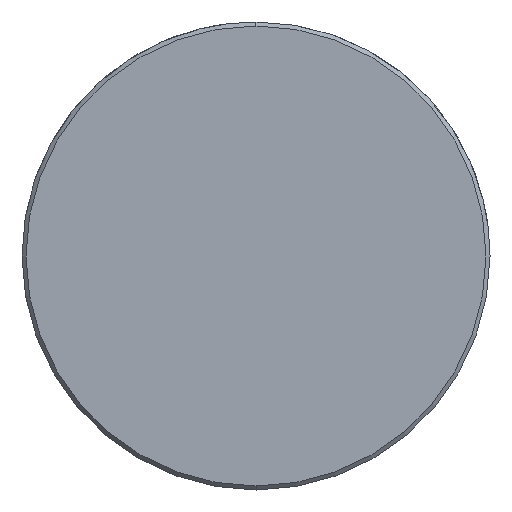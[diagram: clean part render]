
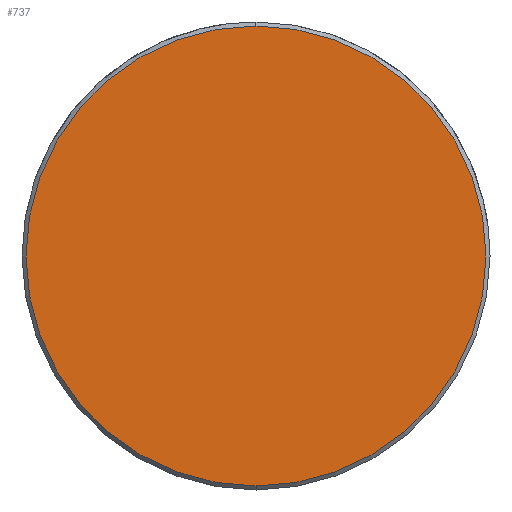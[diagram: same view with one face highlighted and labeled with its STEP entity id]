
A CAD part, left-side view. The second image highlights one B-rep face of the part: STEP entity #737.
In plain terms, the highlighted planar face has unit normal (-1, 0, 0).
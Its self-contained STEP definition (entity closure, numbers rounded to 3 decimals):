
#669=CARTESIAN_POINT('Vertex',(0.,0.,-17.2)) ;
#672=CARTESIAN_POINT('Axis2P3D Location',(0.,0.,0.)) ;
#676=CARTESIAN_POINT('Vertex',(0.,17.2,0.)) ;
#679=CARTESIAN_POINT('Axis2P3D Location',(0.,0.,0.)) ;
#683=CARTESIAN_POINT('Vertex',(0.,0.,17.2)) ;
#705=CARTESIAN_POINT('Axis2P3D Location',(0.,0.,0.)) ;
#709=CARTESIAN_POINT('Vertex',(0.,-17.2,0.)) ;
#712=CARTESIAN_POINT('Axis2P3D Location',(0.,0.,0.)) ;
#726=CARTESIAN_POINT('Axis2P3D Location',(0.,0.,0.)) ;
#673=DIRECTION('Axis2P3D Direction',(1.,0.,-0.)) ;
#680=DIRECTION('Axis2P3D Direction',(1.,0.,-0.)) ;
#706=DIRECTION('Axis2P3D Direction',(1.,0.,-0.)) ;
#713=DIRECTION('Axis2P3D Direction',(1.,0.,-0.)) ;
#727=DIRECTION('Axis2P3D Direction',(1.,0.,-0.)) ;
#728=DIRECTION('Axis2P3D XDirection',(-0.,0.,-1.)) ;
#674=AXIS2_PLACEMENT_3D('Circle Axis2P3D',#672,#673,$) ;
#681=AXIS2_PLACEMENT_3D('Circle Axis2P3D',#679,#680,$) ;
#707=AXIS2_PLACEMENT_3D('Circle Axis2P3D',#705,#706,$) ;
#714=AXIS2_PLACEMENT_3D('Circle Axis2P3D',#712,#713,$) ;
#729=AXIS2_PLACEMENT_3D('Plane Axis2P3D',#726,#727,#728) ;
#732=ORIENTED_EDGE('',*,*,#678,.F.) ;
#733=ORIENTED_EDGE('',*,*,#716,.F.) ;
#734=ORIENTED_EDGE('',*,*,#711,.F.) ;
#735=ORIENTED_EDGE('',*,*,#685,.F.) ;
#737=ADVANCED_FACE('549-30X220',(#736),#730,.F.) ;
#675=CIRCLE('generated circle',#674,17.2) ;
#682=CIRCLE('generated circle',#681,17.2) ;
#708=CIRCLE('generated circle',#707,17.2) ;
#715=CIRCLE('generated circle',#714,17.2) ;
#678=EDGE_CURVE('',#670,#677,#675,.T.) ;
#685=EDGE_CURVE('',#677,#684,#682,.T.) ;
#711=EDGE_CURVE('',#684,#710,#708,.T.) ;
#716=EDGE_CURVE('',#710,#670,#715,.T.) ;
#731=EDGE_LOOP('',(#732,#733,#734,#735)) ;
#736=FACE_OUTER_BOUND('',#731,.T.) ;
#730=PLANE('Plane',#729) ;
#670=VERTEX_POINT('',#669) ;
#677=VERTEX_POINT('',#676) ;
#684=VERTEX_POINT('',#683) ;
#710=VERTEX_POINT('',#709) ;
